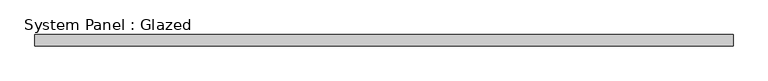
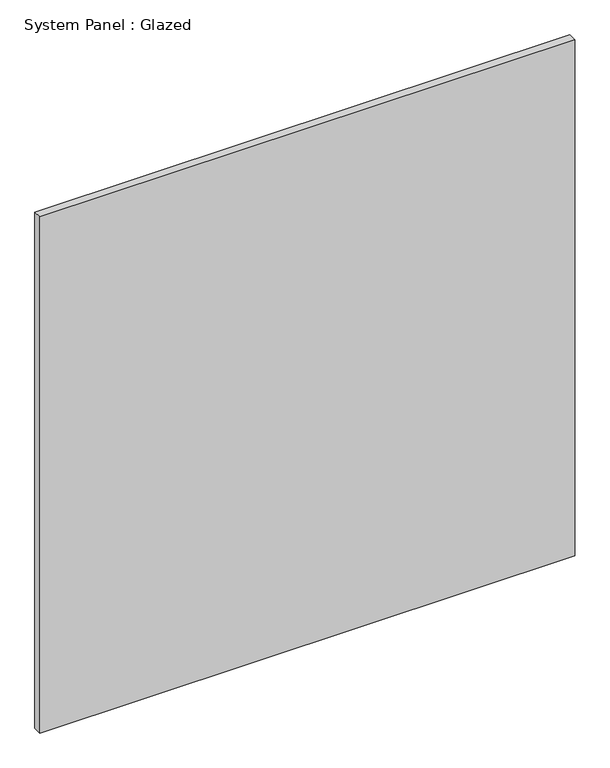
"""IFC4 building model written with IfcOpenShell, lengths in millimetres: plate geometry, System Panel : Glazed."""

import ifcopenshell
import ifcopenshell.guid

model = None  # the IFC model being written
_history = None  # IfcOwnerHistory: only IFC2X3 demands one
_inside = {}  # id of a spatial element -> (the spatial element, [elements in it])
_under = {}  # id of a project, library or spatial element -> (it, [spatial elements below it])
_declared = {}  # id of a project -> (the project, [libraries it declares])
_typed = {}  # id of a type object -> (the type object, [elements of that type])
_made_of = {}  # id of a material, layer set ... -> (it, [elements and type objects made of it])


def new_model(schema):
    """Start an empty IFC model of exactly this schema.

    Asked for "IFC4X3", IfcOpenShell would pick the latest addendum, in which some entities
    have other attributes; the version numbers below select the first issue.
    IFC2X3 requires an IfcOwnerHistory on every rooted entity: one is made here for all.
    """
    global model, _history
    if schema == "IFC4X3":
        model = ifcopenshell.file(schema_version=(4, 3, 0, 0))
    else:
        model = ifcopenshell.file(schema=schema)
    _inside.clear()
    _under.clear()
    _declared.clear()
    _typed.clear()
    _made_of.clear()
    _history = None
    if model.schema == "IFC2X3":
        org = make("IfcOrganization", Name="unknown")
        user = make(
            "IfcPersonAndOrganization",
            ThePerson=make("IfcPerson", FamilyName="unknown"),
            TheOrganization=org,
        )
        app = make(
            "IfcApplication",
            ApplicationDeveloper=org,
            Version="unknown",
            ApplicationFullName="unknown",
            ApplicationIdentifier="unknown",
        )
        _history = make(
            "IfcOwnerHistory",
            OwningUser=user,
            OwningApplication=app,
            ChangeAction="ADDED",
            CreationDate=0,
        )
    return model


def make(cls, **values):
    """One entity of the class cls with the attributes given. An attribute that is None is left unset."""
    return model.create_entity(
        cls, **{name: value for name, value in values.items() if value is not None}
    )


def rooted(cls, **values):
    """An entity with a GlobalId (a new one), such as an element, a storey or a relation."""
    return make(cls, GlobalId=ifcopenshell.guid.new(), OwnerHistory=_history, **values)


def si_unit(unit_type, name, prefix=None):
    """IfcSIUnit, for example si_unit("LENGTHUNIT", "METRE", prefix="MILLI")."""
    return make("IfcSIUnit", UnitType=unit_type, Prefix=prefix, Name=name)


def assignment(units):
    """IfcUnitAssignment: the units of a project."""
    return None if units is None else make("IfcUnitAssignment", Units=units)


def point(xyz):
    """IfcCartesianPoint."""
    return None if xyz is None else make("IfcCartesianPoint", Coordinates=xyz)


def direction(xyz):
    """IfcDirection."""
    return None if xyz is None else make("IfcDirection", DirectionRatios=xyz)


def frame(location, z_axis=None, x_axis=None):
    """IfcAxis2Placement3D, a coordinate frame: its origin and axes. An axis left out is left unset."""
    return make(
        "IfcAxis2Placement3D",
        Location=point(location),
        Axis=direction(z_axis),
        RefDirection=direction(x_axis),
    )


def origin():
    """The frame at (0, 0, 0) with its axes left unset."""
    return frame((0.0, 0.0, 0.0))


def origin_with_axes():
    """The frame at (0, 0, 0) with the z axis (0, 0, 1) and the x axis (1, 0, 0) written out."""
    return frame((0.0, 0.0, 0.0), z_axis=(0.0, 0.0, 1.0), x_axis=(1.0, 0.0, 0.0))


def place(relative_to, where):
    """IfcLocalPlacement: puts the frame where relative to a parent placement (None: the world)."""
    return make(
        "IfcLocalPlacement", PlacementRelTo=relative_to, RelativePlacement=where
    )


def context(
    kind, dimensions, precision=None, world=None, true_north=None, identifier=None
):
    """IfcGeometricRepresentationContext, for example the 3D "Model" context."""
    return make(
        "IfcGeometricRepresentationContext",
        ContextIdentifier=identifier,
        ContextType=kind,
        CoordinateSpaceDimension=dimensions,
        Precision=precision,
        WorldCoordinateSystem=world,
        TrueNorth=true_north,
    )


def project(units=None, contexts=None):
    """IfcProject with its units and contexts."""
    return rooted(
        "IfcProject",
        Name="project",
        RepresentationContexts=contexts,
        UnitsInContext=assignment(units),
    )


def spatial(cls, under=None, at=None, **own):
    """A site, building, storey or space (cls), placed at a placement, below another one or the project."""
    s = rooted(cls, ObjectPlacement=at, **own)
    if under is not None:
        _under.setdefault(under.id(), (under, []))[1].append(s)
    return s


def polyline(points):
    """IfcPolyline through the points."""
    return make("IfcPolyline", Points=[point(p) for p in points])


def outline(outer, holes=None, kind="AREA"):
    """IfcArbitraryClosedProfileDef: a profile drawn as a closed curve; with holes, ...WithVoids."""
    if holes is None:
        return make("IfcArbitraryClosedProfileDef", ProfileType=kind, OuterCurve=outer)
    return make(
        "IfcArbitraryProfileDefWithVoids",
        ProfileType=kind,
        OuterCurve=outer,
        InnerCurves=holes,
    )


def extrude(swept, where, along, depth):
    """IfcExtrudedAreaSolid: the profile swept, set in the frame where, extruded along a direction by depth."""
    return make(
        "IfcExtrudedAreaSolid",
        SweptArea=swept,
        Position=where,
        ExtrudedDirection=direction(along),
        Depth=depth,
    )


def shape(context_of_items, identifier, shape_type, items):
    """IfcShapeRepresentation: the items that make up one representation, for example the "Body"."""
    return make(
        "IfcShapeRepresentation",
        ContextOfItems=context_of_items,
        RepresentationIdentifier=identifier,
        RepresentationType=shape_type,
        Items=items,
    )


def source(mapping_origin, context_of_items, identifier, shape_type, items):
    """IfcRepresentationMap: a shape defined once, which mapped items show again and again."""
    return make(
        "IfcRepresentationMap",
        MappingOrigin=mapping_origin,
        MappedRepresentation=shape(context_of_items, identifier, shape_type, items),
    )


def transform(
    local_origin,
    x_axis=None,
    y_axis=None,
    z_axis=None,
    scale=None,
    scale2=None,
    scale3=None,
    uniform=True,
):
    """IfcCartesianTransformationOperator3D, or its non-uniform kind. x_axis, y_axis, z_axis: its Axis1, 2, 3."""
    if uniform:
        return make(
            "IfcCartesianTransformationOperator3D",
            Axis1=direction(x_axis),
            Axis2=direction(y_axis),
            LocalOrigin=point(local_origin),
            Scale=scale,
            Axis3=direction(z_axis),
        )
    return make(
        "IfcCartesianTransformationOperator3DnonUniform",
        Axis1=direction(x_axis),
        Axis2=direction(y_axis),
        LocalOrigin=point(local_origin),
        Scale=scale,
        Axis3=direction(z_axis),
        Scale2=scale2,
        Scale3=scale3,
    )


def mapped(mapping_source, mapping_target):
    """IfcMappedItem: shows the shape of a source again, moved by a transform."""
    return make(
        "IfcMappedItem", MappingSource=mapping_source, MappingTarget=mapping_target
    )


def made_of(thing, what):
    """Note that an element or type object is made of a material, layer set ...; save() writes the relation."""
    if what is not None:
        _made_of.setdefault(what.id(), (what, []))[1].append(thing)
    return thing


def element(
    cls,
    number,
    at=None,
    inside=None,
    cuts=None,
    type_object=None,
    material=None,
    context=None,
    identifier="Body",
    shape_type=None,
    held_by="IfcProductDefinitionShape",
    body=None,
    shapes=None,
    **own,
):
    """One element of the class cls, such as IfcWall. Its Tag is "e" and its number.

    at: its placement. inside: the storey or other place that contains it. cuts: it is an
    opening in that element (IfcRelVoidsElement). A single representation is given by context,
    identifier, shape_type and body (its items); several are given by shapes. held_by: the class
    of the entity that holds the representations. save() writes the other relations.
    """
    e = rooted(cls, Tag="e%d" % number, ObjectPlacement=at, **own)
    if body is not None:
        shapes = [shape(context, identifier, shape_type, body)]
    if shapes is not None:
        e.Representation = make(held_by, Representations=shapes)
    if inside is not None:
        _inside.setdefault(inside.id(), (inside, []))[1].append(e)
    if cuts is not None:
        rooted(
            "IfcRelVoidsElement", RelatingBuildingElement=cuts, RelatedOpeningElement=e
        )
    if type_object is not None:
        _typed.setdefault(type_object.id(), (type_object, []))[1].append(e)
    return made_of(e, material)


def aggregate(whole, parts):
    """IfcRelAggregates: a whole, such as a stair, and the parts it consists of."""
    return rooted("IfcRelAggregates", RelatingObject=whole, RelatedObjects=parts)


def save(model, path):
    """Write the relations noted so far, then the file.

    IfcRelAggregates (storeys below a building ...), IfcRelContainedInSpatialStructure (elements
    in a storey), IfcRelDefinesByType, IfcRelAssociatesMaterial and IfcRelDeclares: one each for
    every whole, place, type object, material and project.
    """
    for whole, parts in _under.values():
        aggregate(whole, parts)
    for where, things in _inside.values():
        rooted(
            "IfcRelContainedInSpatialStructure",
            RelatedElements=things,
            RelatingStructure=where,
        )
    for kind, things in _typed.values():
        rooted("IfcRelDefinesByType", RelatedObjects=things, RelatingType=kind)
    for what, things in _made_of.values():
        rooted("IfcRelAssociatesMaterial", RelatedObjects=things, RelatingMaterial=what)
    for by, libraries in _declared.values():
        rooted("IfcRelDeclares", RelatingContext=by, RelatedDefinitions=libraries)
    model.write(path)


def system_panel_glazed_9146deb3(model_context):
    return source(origin(), model_context, "Body", "SweptSolid", [
        extrude(outline(polyline([(790.575, 19.05), (-790.575, 19.05), (-790.575, 44.45), (790.575, 44.45), (790.575, 19.05)])), origin_with_axes(), (0.0, 0.0, 1.0), 1612.9),
    ])


if __name__ == "__main__":
    model = new_model("IFC4")
    model_context = context("Model", 3, world=origin())
    ifc_project = project(units=[si_unit("LENGTHUNIT", "METRE", prefix="MILLI")], contexts=[model_context])
    site = spatial("IfcSite", under=ifc_project)
    building = spatial("IfcBuilding", under=site)
    placement = place(None, origin())
    system_panel_glazed_shape = system_panel_glazed_9146deb3(model_context)
    element("IfcPlate", 1, ObjectType="System Panel : Glazed", at=placement, inside=building, context=model_context, shape_type="MappedRepresentation", body=[
        mapped(system_panel_glazed_shape, transform((0.0, 0.0, 0.0), x_axis=(1.0, 0.0, 0.0), y_axis=(0.0, 1.0, 0.0), z_axis=(0.0, 0.0, 1.0))),
    ])
    save(model, "model.ifc")
